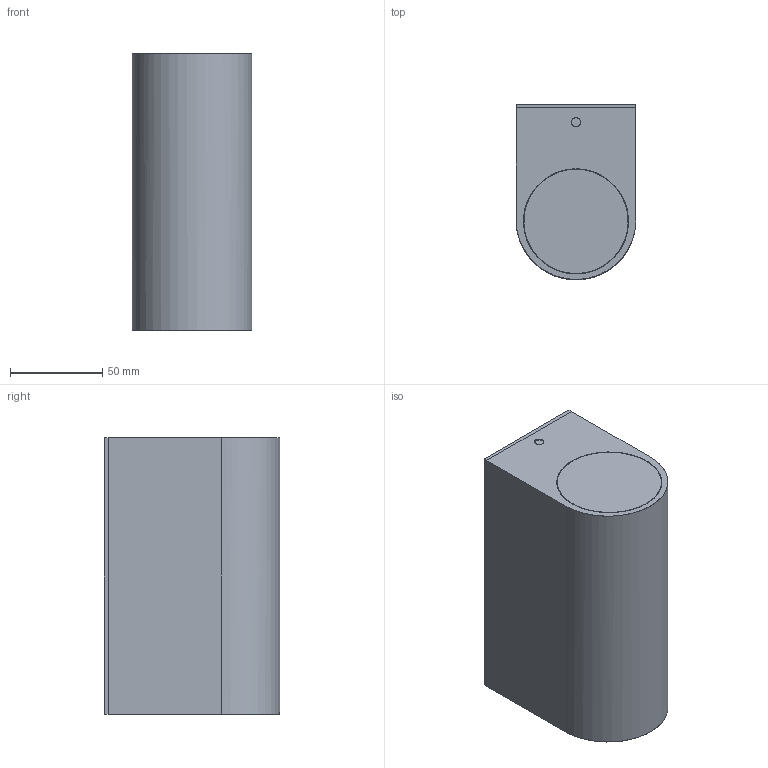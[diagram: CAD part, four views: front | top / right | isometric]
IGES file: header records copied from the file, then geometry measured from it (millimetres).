
Start section: SolidWorks IGES file using NURBS representation for surfaces
Global section: file name: Z:\Modele 3D_WWW\_KOLEKCJE WWW\NICO\NICO-9517\NICO-9517.IGS; native system: SolidWorks 2021; preprocessor: SolidWorks 2021; author: gabriela.tworek; date: 220301.065040; units: millimetre
Bounding box: 65 x 94.97 x 150 mm (x, y, z)
Surface area: 121400.9 mm2 (no closed solid volume)
Topology: 0 solids, 0 shells, 43 faces, 180 edges, 168 vertices
Faces by surface type: bspline 43
